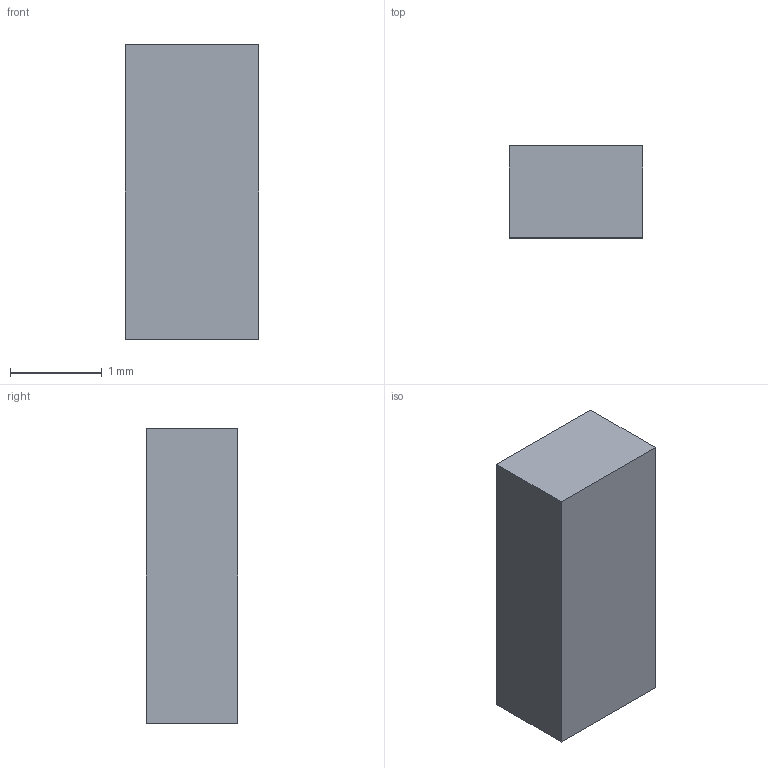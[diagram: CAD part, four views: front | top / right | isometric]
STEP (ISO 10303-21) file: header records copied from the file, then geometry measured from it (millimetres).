
FILE_DESCRIPTION(('Open CASCADE Model'),'2;1');
FILE_NAME('Open CASCADE Shape Model','2026-08-18T10:55:12',('Author'),( 'Open CASCADE'),'Open CASCADE STEP processor 7.9','Open CASCADE 7.9' ,'Unknown');
FILE_SCHEMA(('AUTOMOTIVE_DESIGN { 1 0 10303 214 1 1 1 1 }'));
Length unit declared in the file: millimetre
Products named in the file (1): mini_button
Bounding box: 1.45 x 1 x 3.2 mm (x, y, z)
Volume: 4.6 mm3; surface area: 18.6 mm2
Topology: 1 solids, 1 shells, 6 faces, 12 edges, 8 vertices
Faces by surface type: plane 6
Entity records: 322 total; most frequent: CARTESIAN_POINT 51, DIRECTION 50, LINE 36, VECTOR 36, ORIENTED_EDGE 24, PCURVE 24, DEFINITIONAL_REPRESENTATION 24, EDGE_CURVE 12
